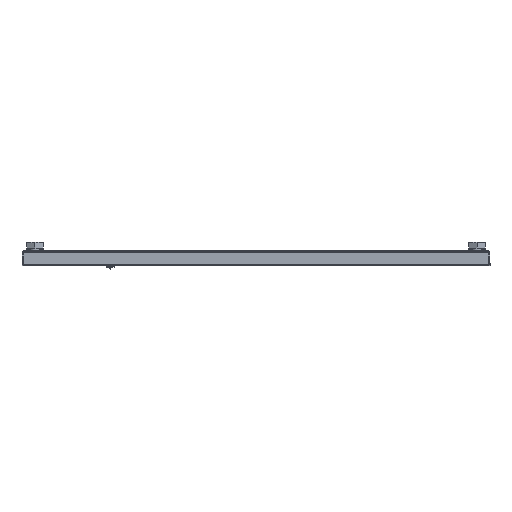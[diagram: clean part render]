
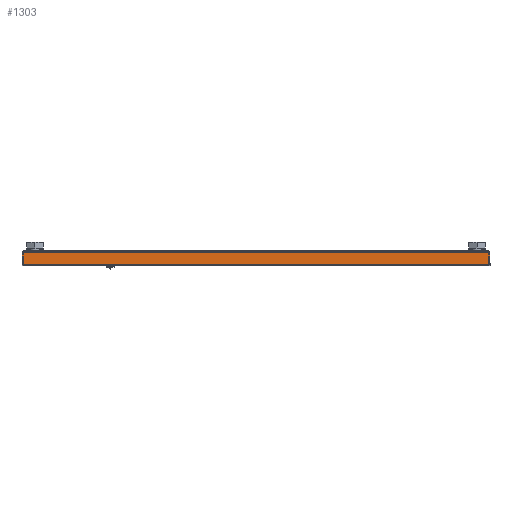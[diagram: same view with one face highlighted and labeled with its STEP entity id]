
A CAD part, top view. The second image highlights one B-rep face of the part: STEP entity #1303.
In plain terms, the highlighted planar face has unit normal (0, 0, 1).
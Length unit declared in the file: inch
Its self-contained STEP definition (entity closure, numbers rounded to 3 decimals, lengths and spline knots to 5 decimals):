
#1 = CARTESIAN_POINT ( 'NONE',  ( -11.62915, -0.06, 19.6615 ) ) ;
#28 = CARTESIAN_POINT ( 'NONE',  ( 11.62915, -0.63, 19.6615 ) ) ;
#41 = CARTESIAN_POINT ( 'NONE',  ( -11.62915, -0.63, 19.6615 ) ) ;
#152 = CARTESIAN_POINT ( 'NONE',  ( 11.62915, -0.06, 19.6615 ) ) ;
#176 = VERTEX_POINT ( 'NONE', #152 ) ;
#292 = VERTEX_POINT ( 'NONE', #41 ) ;
#305 = VERTEX_POINT ( 'NONE', #28 ) ;
#332 = VERTEX_POINT ( 'NONE', #1 ) ;
#917 = ORIENTED_EDGE ( 'NONE', *, *, #3022, .F. ) ;
#977 = ORIENTED_EDGE ( 'NONE', *, *, #2734, .F. ) ;
#981 = ORIENTED_EDGE ( 'NONE', *, *, #3010, .F. ) ;
#984 = ORIENTED_EDGE ( 'NONE', *, *, #2720, .T. ) ;
#1274 = EDGE_LOOP ( 'NONE', ( #981, #984, #917, #977 ) ) ;
#1303 = ADVANCED_FACE ( 'NONE', ( #2012 ), #5419, .F. ) ;
#1642 = LINE ( 'NONE', #5148, #1679 ) ;
#1679 = VECTOR ( 'NONE', #4793, 39.37008 ) ;
#1680 = LINE ( 'NONE', #4594, #1714 ) ;
#1714 = VECTOR ( 'NONE', #4901, 39.37008 ) ;
#1870 = LINE ( 'NONE', #4561, #1883 ) ;
#1883 = VECTOR ( 'NONE', #4562, 39.37008 ) ;
#2012 = FACE_OUTER_BOUND ( 'NONE', #1274, .T. ) ;
#2340 = LINE ( 'NONE', #5513, #2341 ) ;
#2341 = VECTOR ( 'NONE', #5514, 39.37008 ) ;
#2720 = EDGE_CURVE ( 'NONE', #332, #292, #1642, .T. ) ;
#2734 = EDGE_CURVE ( 'NONE', #176, #305, #1870, .T. ) ;
#2991 = AXIS2_PLACEMENT_3D ( 'NONE', #5415, #4849, #5124 ) ;
#3010 = EDGE_CURVE ( 'NONE', #332, #176, #1680, .T. ) ;
#3022 = EDGE_CURVE ( 'NONE', #305, #292, #2340, .T. ) ;
#4561 = CARTESIAN_POINT ( 'NONE',  ( 11.62915, -0.06, 19.6615 ) ) ;
#4562 = DIRECTION ( 'NONE',  ( 0., -1., 0. ) ) ;
#4594 = CARTESIAN_POINT ( 'NONE',  ( 11.6495, -0.06, 19.6615 ) ) ;
#4793 = DIRECTION ( 'NONE',  ( 0., -1., 0. ) ) ;
#4849 = DIRECTION ( 'NONE',  ( 0., 0., -1. ) ) ;
#4901 = DIRECTION ( 'NONE',  ( 1., 0., 0. ) ) ;
#5124 = DIRECTION ( 'NONE',  ( 0., 1., 0. ) ) ;
#5148 = CARTESIAN_POINT ( 'NONE',  ( -11.62915, -0.06, 19.6615 ) ) ;
#5415 = CARTESIAN_POINT ( 'NONE',  ( 11.6495, -0.63, 19.6615 ) ) ;
#5419 = PLANE ( 'NONE',  #2991 ) ;
#5513 = CARTESIAN_POINT ( 'NONE',  ( 11.6495, -0.63, 19.6615 ) ) ;
#5514 = DIRECTION ( 'NONE',  ( -1., 0., 0. ) ) ;
